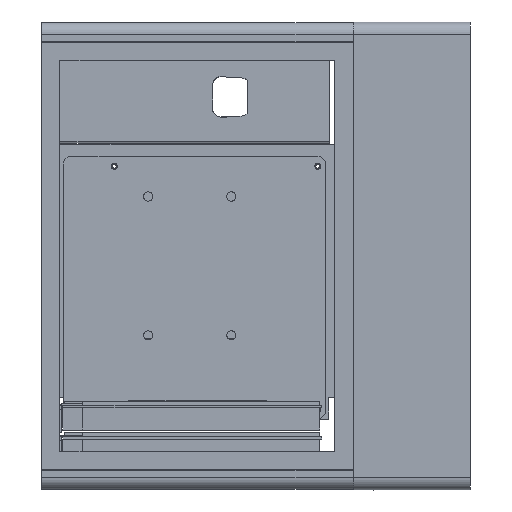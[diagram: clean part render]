
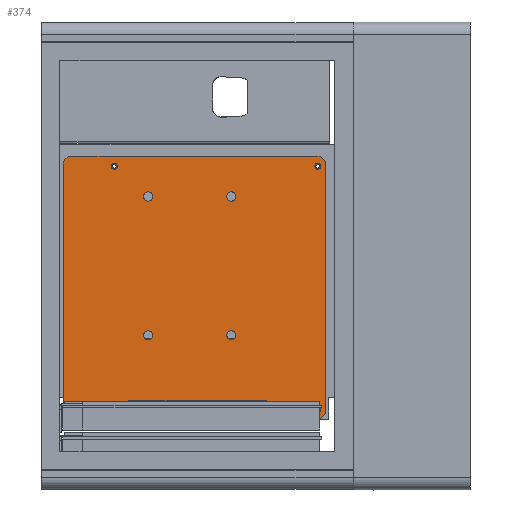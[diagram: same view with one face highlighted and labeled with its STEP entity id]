
A CAD part, front view. The second image highlights one B-rep face of the part: STEP entity #374.
In plain terms, the highlighted planar face has unit normal (0, -1, 0) as drawn and (0, 1, 0) by its records, which use the part's own axes.
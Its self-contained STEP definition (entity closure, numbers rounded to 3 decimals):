
#115 = VERTEX_POINT('',#116);
#116 = CARTESIAN_POINT('',(31.,1.6,-21.));
#132 = EDGE_CURVE('',#115,#115,#133,.T.);
#133 = CIRCLE('',#134,3.);
#134 = AXIS2_PLACEMENT_3D('',#135,#136,#137);
#135 = CARTESIAN_POINT('',(31.,1.6,-24.));
#136 = DIRECTION('',(0.,1.,0.));
#137 = DIRECTION('',(0.,-0.,1.));
#148 = VERTEX_POINT('',#149);
#149 = CARTESIAN_POINT('',(-59.,1.6,-21.));
#165 = EDGE_CURVE('',#148,#148,#166,.T.);
#166 = CIRCLE('',#167,3.);
#167 = AXIS2_PLACEMENT_3D('',#168,#169,#170);
#168 = CARTESIAN_POINT('',(-59.,1.6,-24.));
#169 = DIRECTION('',(0.,1.,0.));
#170 = DIRECTION('',(0.,-0.,1.));
#181 = VERTEX_POINT('',#182);
#182 = CARTESIAN_POINT('',(31.,1.6,33.));
#198 = EDGE_CURVE('',#181,#181,#199,.T.);
#199 = CIRCLE('',#200,3.);
#200 = AXIS2_PLACEMENT_3D('',#201,#202,#203);
#201 = CARTESIAN_POINT('',(31.,1.6,30.));
#202 = DIRECTION('',(0.,1.,0.));
#203 = DIRECTION('',(0.,-0.,1.));
#214 = VERTEX_POINT('',#215);
#215 = CARTESIAN_POINT('',(-59.,1.6,33.));
#231 = EDGE_CURVE('',#214,#214,#232,.T.);
#232 = CIRCLE('',#233,3.);
#233 = AXIS2_PLACEMENT_3D('',#234,#235,#236);
#234 = CARTESIAN_POINT('',(-59.,1.6,30.));
#235 = DIRECTION('',(0.,1.,0.));
#236 = DIRECTION('',(0.,-0.,1.));
#247 = VERTEX_POINT('',#248);
#248 = CARTESIAN_POINT('',(-78.65,1.6,-78.1));
#264 = EDGE_CURVE('',#247,#247,#265,.T.);
#265 = CIRCLE('',#266,2.);
#266 = AXIS2_PLACEMENT_3D('',#267,#268,#269);
#267 = CARTESIAN_POINT('',(-78.65,1.6,-80.1));
#268 = DIRECTION('',(0.,1.,0.));
#269 = DIRECTION('',(0.,-0.,1.));
#280 = VERTEX_POINT('',#281);
#281 = CARTESIAN_POINT('',(78.83,1.6,-78.1));
#297 = EDGE_CURVE('',#280,#280,#298,.T.);
#298 = CIRCLE('',#299,2.);
#299 = AXIS2_PLACEMENT_3D('',#300,#301,#302);
#300 = CARTESIAN_POINT('',(78.83,1.6,-80.1));
#301 = DIRECTION('',(0.,1.,0.));
#302 = DIRECTION('',(0.,-0.,1.));
#313 = VERTEX_POINT('',#314);
#314 = CARTESIAN_POINT('',(78.83,1.6,76.84));
#330 = EDGE_CURVE('',#313,#313,#331,.T.);
#331 = CIRCLE('',#332,2.);
#332 = AXIS2_PLACEMENT_3D('',#333,#334,#335);
#333 = CARTESIAN_POINT('',(78.83,1.6,74.84));
#334 = DIRECTION('',(0.,1.,0.));
#335 = DIRECTION('',(0.,-0.,1.));
#346 = VERTEX_POINT('',#347);
#347 = CARTESIAN_POINT('',(-78.65,1.6,53.98));
#363 = EDGE_CURVE('',#346,#346,#364,.T.);
#364 = CIRCLE('',#365,2.);
#365 = AXIS2_PLACEMENT_3D('',#366,#367,#368);
#366 = CARTESIAN_POINT('',(-78.65,1.6,51.98));
#367 = DIRECTION('',(0.,1.,0.));
#368 = DIRECTION('',(0.,-0.,1.));
#374 = ADVANCED_FACE('',(#375,#445,#479,#482,#485,#488,#491,#494,#497,
    #500),#503,.T.);
#375 = FACE_BOUND('',#376,.T.);
#376 = EDGE_LOOP('',(#377,#387,#396,#404,#413,#421,#430,#438));
#377 = ORIENTED_EDGE('',*,*,#378,.F.);
#378 = EDGE_CURVE('',#379,#381,#383,.T.);
#379 = VERTEX_POINT('',#380);
#380 = CARTESIAN_POINT('',(-80.,1.6,-85.));
#381 = VERTEX_POINT('',#382);
#382 = CARTESIAN_POINT('',(80.,1.6,-85.));
#383 = LINE('',#384,#385);
#384 = CARTESIAN_POINT('',(0.,1.6,-85.));
#385 = VECTOR('',#386,1.);
#386 = DIRECTION('',(1.,0.,0.));
#387 = ORIENTED_EDGE('',*,*,#388,.T.);
#388 = EDGE_CURVE('',#379,#389,#391,.T.);
#389 = VERTEX_POINT('',#390);
#390 = CARTESIAN_POINT('',(-85.,1.6,-80.));
#391 = CIRCLE('',#392,5.);
#392 = AXIS2_PLACEMENT_3D('',#393,#394,#395);
#393 = CARTESIAN_POINT('',(-80.,1.6,-80.));
#394 = DIRECTION('',(0.,1.,0.));
#395 = DIRECTION('',(0.,-0.,1.));
#396 = ORIENTED_EDGE('',*,*,#397,.T.);
#397 = EDGE_CURVE('',#389,#398,#400,.T.);
#398 = VERTEX_POINT('',#399);
#399 = CARTESIAN_POINT('',(-85.,1.6,80.));
#400 = LINE('',#401,#402);
#401 = CARTESIAN_POINT('',(-85.,1.6,0.));
#402 = VECTOR('',#403,1.);
#403 = DIRECTION('',(0.,0.,1.));
#404 = ORIENTED_EDGE('',*,*,#405,.T.);
#405 = EDGE_CURVE('',#398,#406,#408,.T.);
#406 = VERTEX_POINT('',#407);
#407 = CARTESIAN_POINT('',(-80.,1.6,85.));
#408 = CIRCLE('',#409,5.);
#409 = AXIS2_PLACEMENT_3D('',#410,#411,#412);
#410 = CARTESIAN_POINT('',(-80.,1.6,80.));
#411 = DIRECTION('',(0.,1.,0.));
#412 = DIRECTION('',(0.,-0.,1.));
#413 = ORIENTED_EDGE('',*,*,#414,.T.);
#414 = EDGE_CURVE('',#406,#415,#417,.T.);
#415 = VERTEX_POINT('',#416);
#416 = CARTESIAN_POINT('',(80.,1.6,85.));
#417 = LINE('',#418,#419);
#418 = CARTESIAN_POINT('',(0.,1.6,85.));
#419 = VECTOR('',#420,1.);
#420 = DIRECTION('',(1.,0.,0.));
#421 = ORIENTED_EDGE('',*,*,#422,.T.);
#422 = EDGE_CURVE('',#415,#423,#425,.T.);
#423 = VERTEX_POINT('',#424);
#424 = CARTESIAN_POINT('',(85.,1.6,80.));
#425 = CIRCLE('',#426,5.);
#426 = AXIS2_PLACEMENT_3D('',#427,#428,#429);
#427 = CARTESIAN_POINT('',(80.,1.6,80.));
#428 = DIRECTION('',(0.,1.,0.));
#429 = DIRECTION('',(0.,-0.,1.));
#430 = ORIENTED_EDGE('',*,*,#431,.F.);
#431 = EDGE_CURVE('',#432,#423,#434,.T.);
#432 = VERTEX_POINT('',#433);
#433 = CARTESIAN_POINT('',(85.,1.6,-80.));
#434 = LINE('',#435,#436);
#435 = CARTESIAN_POINT('',(85.,1.6,0.));
#436 = VECTOR('',#437,1.);
#437 = DIRECTION('',(0.,0.,1.));
#438 = ORIENTED_EDGE('',*,*,#439,.T.);
#439 = EDGE_CURVE('',#432,#381,#440,.T.);
#440 = CIRCLE('',#441,5.);
#441 = AXIS2_PLACEMENT_3D('',#442,#443,#444);
#442 = CARTESIAN_POINT('',(80.,1.6,-80.));
#443 = DIRECTION('',(0.,1.,0.));
#444 = DIRECTION('',(0.,-0.,1.));
#445 = FACE_BOUND('',#446,.T.);
#446 = EDGE_LOOP('',(#447,#457,#465,#473));
#447 = ORIENTED_EDGE('',*,*,#448,.T.);
#448 = EDGE_CURVE('',#449,#451,#453,.T.);
#449 = VERTEX_POINT('',#450);
#450 = CARTESIAN_POINT('',(73.5,1.6,42.4));
#451 = VERTEX_POINT('',#452);
#452 = CARTESIAN_POINT('',(73.5,1.6,-46.6));
#453 = LINE('',#454,#455);
#454 = CARTESIAN_POINT('',(73.5,1.6,0.));
#455 = VECTOR('',#456,1.);
#456 = DIRECTION('',(0.,0.,-1.));
#457 = ORIENTED_EDGE('',*,*,#458,.F.);
#458 = EDGE_CURVE('',#459,#451,#461,.T.);
#459 = VERTEX_POINT('',#460);
#460 = CARTESIAN_POINT('',(81.,1.6,-46.6));
#461 = LINE('',#462,#463);
#462 = CARTESIAN_POINT('',(0.,1.6,-46.6));
#463 = VECTOR('',#464,1.);
#464 = DIRECTION('',(-1.,0.,0.));
#465 = ORIENTED_EDGE('',*,*,#466,.F.);
#466 = EDGE_CURVE('',#467,#459,#469,.T.);
#467 = VERTEX_POINT('',#468);
#468 = CARTESIAN_POINT('',(81.,1.6,42.4));
#469 = LINE('',#470,#471);
#470 = CARTESIAN_POINT('',(81.,1.6,0.));
#471 = VECTOR('',#472,1.);
#472 = DIRECTION('',(0.,0.,-1.));
#473 = ORIENTED_EDGE('',*,*,#474,.T.);
#474 = EDGE_CURVE('',#467,#449,#475,.T.);
#475 = LINE('',#476,#477);
#476 = CARTESIAN_POINT('',(0.,1.6,42.4));
#477 = VECTOR('',#478,1.);
#478 = DIRECTION('',(-1.,0.,0.));
#479 = FACE_BOUND('',#480,.T.);
#480 = EDGE_LOOP('',(#481));
#481 = ORIENTED_EDGE('',*,*,#132,.F.);
#482 = FACE_BOUND('',#483,.T.);
#483 = EDGE_LOOP('',(#484));
#484 = ORIENTED_EDGE('',*,*,#165,.F.);
#485 = FACE_BOUND('',#486,.T.);
#486 = EDGE_LOOP('',(#487));
#487 = ORIENTED_EDGE('',*,*,#198,.F.);
#488 = FACE_BOUND('',#489,.T.);
#489 = EDGE_LOOP('',(#490));
#490 = ORIENTED_EDGE('',*,*,#231,.F.);
#491 = FACE_BOUND('',#492,.T.);
#492 = EDGE_LOOP('',(#493));
#493 = ORIENTED_EDGE('',*,*,#264,.F.);
#494 = FACE_BOUND('',#495,.T.);
#495 = EDGE_LOOP('',(#496));
#496 = ORIENTED_EDGE('',*,*,#297,.F.);
#497 = FACE_BOUND('',#498,.T.);
#498 = EDGE_LOOP('',(#499));
#499 = ORIENTED_EDGE('',*,*,#330,.F.);
#500 = FACE_BOUND('',#501,.T.);
#501 = EDGE_LOOP('',(#502));
#502 = ORIENTED_EDGE('',*,*,#363,.F.);
#503 = PLANE('',#504);
#504 = AXIS2_PLACEMENT_3D('',#505,#506,#507);
#505 = CARTESIAN_POINT('',(0.,1.6,0.));
#506 = DIRECTION('',(0.,1.,0.));
#507 = DIRECTION('',(0.,-0.,1.));
